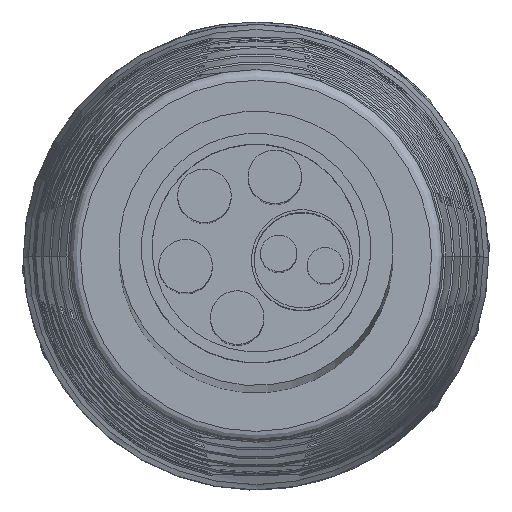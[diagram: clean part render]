
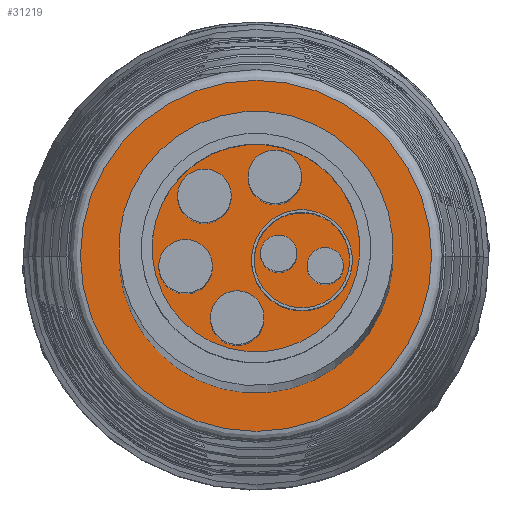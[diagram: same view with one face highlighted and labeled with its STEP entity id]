
A CAD part, top view. The second image highlights one B-rep face of the part: STEP entity #31219.
In plain terms, the highlighted planar face has unit normal (0, 0, 1).
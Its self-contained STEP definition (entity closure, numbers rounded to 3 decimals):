
#364 = DIRECTION ( 'NONE',  ( 0., 0., 1. ) ) ;
#1891 = VERTEX_POINT ( 'NONE', #10869 ) ;
#3252 = FACE_OUTER_BOUND ( 'NONE', #22804, .T. ) ;
#3840 = ORIENTED_EDGE ( 'NONE', *, *, #21532, .F. ) ;
#4568 = DIRECTION ( 'NONE',  ( 0., 1., 0. ) ) ;
#10869 = CARTESIAN_POINT ( 'NONE',  ( -79.987, 249.495, -895.938 ) ) ;
#13562 = DIRECTION ( 'NONE',  ( 0., 1., 0. ) ) ;
#13737 = AXIS2_PLACEMENT_3D ( 'NONE', #36981, #22524, #13562 ) ;
#14342 = CIRCLE ( 'NONE', #13737, 8.192 ) ;
#14897 = PLANE ( 'NONE',  #16901 ) ;
#16901 = AXIS2_PLACEMENT_3D ( 'NONE', #26543, #364, #4568 ) ;
#21532 = EDGE_CURVE ( 'NONE', #1891, #1891, #14342, .T. ) ;
#22524 = DIRECTION ( 'NONE',  ( 0., 0., -1. ) ) ;
#22804 = EDGE_LOOP ( 'NONE', ( #3840 ) ) ;
#26543 = CARTESIAN_POINT ( 'NONE',  ( -69.487, 251.803, -895.938 ) ) ;
#31219 = ADVANCED_FACE ( 'NONE', ( #3252 ), #14897, .T. ) ;
#36981 = CARTESIAN_POINT ( 'NONE',  ( -79.987, 241.303, -895.938 ) ) ;
